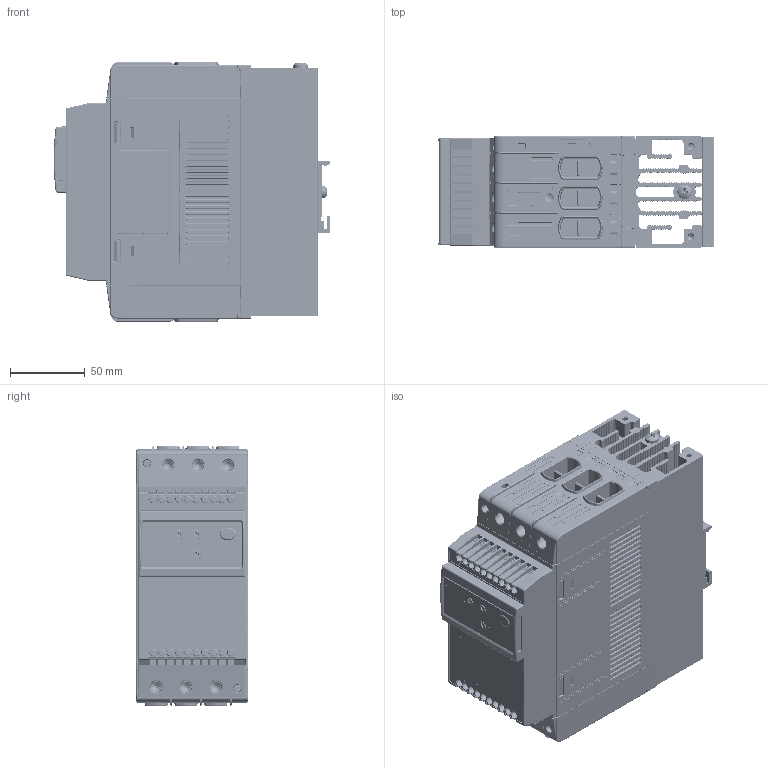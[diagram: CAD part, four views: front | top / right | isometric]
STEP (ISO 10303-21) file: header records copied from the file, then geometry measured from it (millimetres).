
FILE_DESCRIPTION((''),'2;1');
FILE_NAME('CGI1295-00-3D.stp','2016-05-16T12:32:43',(''),(''),'Mechanical Desktop 2011','Mechanical Desktop 2011',', , ');
FILE_SCHEMA(('CONFIG_CONTROL_DESIGN'));
Length unit declared in the file: millimetre
Products named in the file (2): Product; CGI1295-00-3D
Assembly tree (1 placements, depth 2):
  Product
    CGI1295-00-3D
Bounding box: 185.42 x 75.2 x 174 mm (x, y, z)
Volume: 1681568.1 mm3; surface area: 299962.5 mm2
Topology: 3 solids, 7 shells, 34543 faces, 101076 edges, 66963 vertices
Faces by surface type: plane 29704, bspline 2671, cylinder 1830, cone 150, torus 126, sphere 62
Entity records: 1218961 total; most frequent: CARTESIAN_POINT 307710, ORIENTED_EDGE 202016, DIRECTION 170364, EDGE_CURVE 101008, VECTOR 92764, LINE 92764, VERTEX_POINT 66961, AXIS2_PLACEMENT_3D 38800
